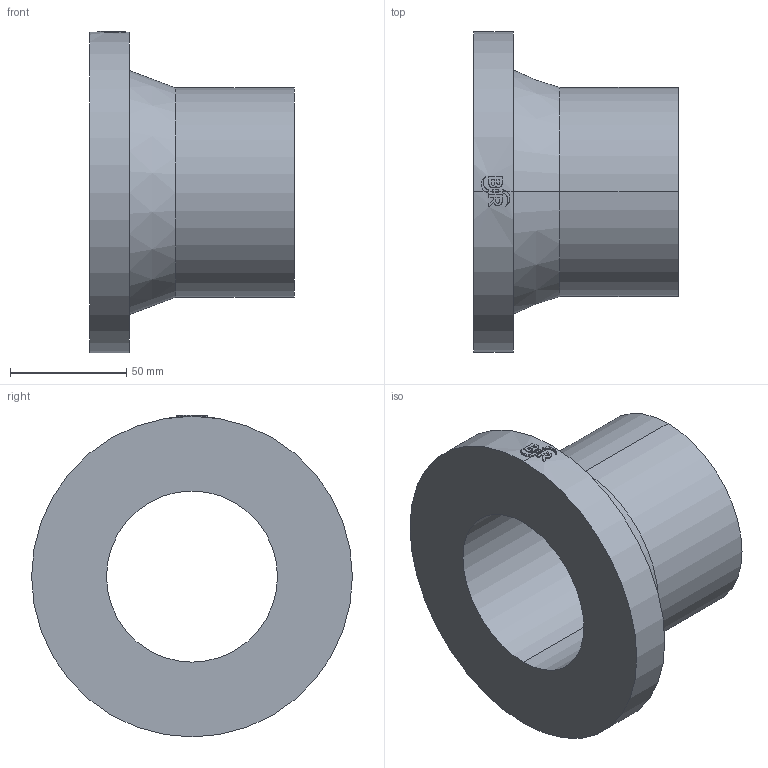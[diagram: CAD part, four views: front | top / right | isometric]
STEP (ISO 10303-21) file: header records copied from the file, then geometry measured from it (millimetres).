
FILE_DESCRIPTION (( 'STEP AP214' ), '1' );
FILE_NAME ('233513F015.STEP', '2018-07-20T11:24:38', ( '' ), ( '' ), 'SwSTEP 2.0', 'SolidWorks 2017', '' );
FILE_SCHEMA (( 'AUTOMOTIVE_DESIGN' ));
Length unit declared in the file: millimetre
Products named in the file (1): 233513F015
Bounding box: 88 x 138 x 138.5 mm (x, y, z)
Volume: 353971.8 mm3; surface area: 67842.4 mm2
Topology: 1 solids, 1 shells, 60 faces, 154 edges, 102 vertices
Faces by surface type: cylinder 29, plane 29, cone 2
Entity records: 2836 total; most frequent: CARTESIAN_POINT 719, ORIENTED_EDGE 308, DIRECTION 282, EDGE_CURVE 154, AXIS2_PLACEMENT_3D 107, VERTEX_POINT 102, EDGE_LOOP 68, LINE 68
